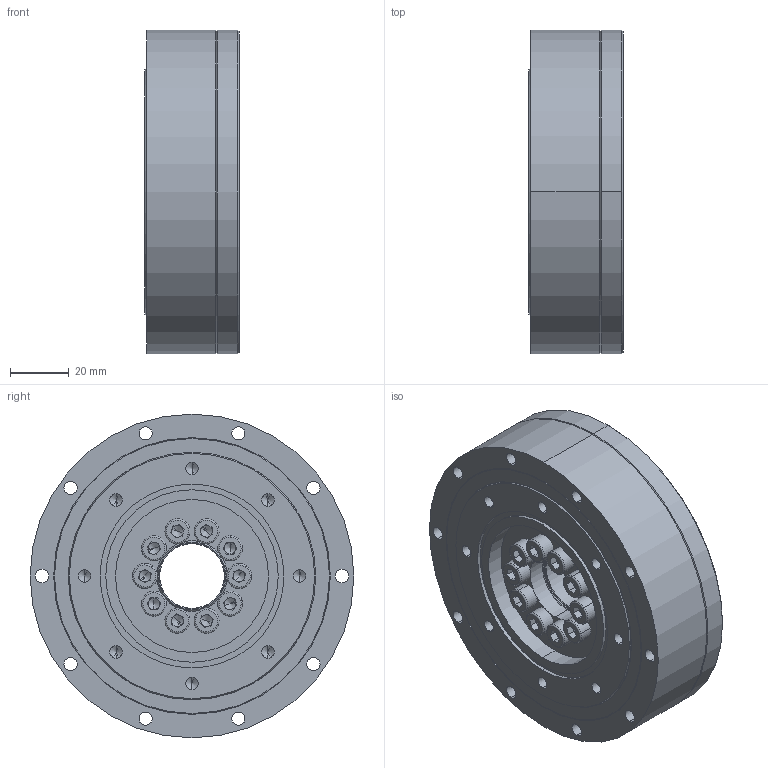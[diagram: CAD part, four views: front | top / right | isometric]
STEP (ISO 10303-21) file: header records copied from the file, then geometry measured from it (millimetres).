
FILE_DESCRIPTION (( 'STEP AP203' ), '1' );
FILE_NAME ('LCD-25-XXX-C-I.STEP', '2022-06-25T03:07:48', ( '' ), ( '' ), 'SwSTEP 2.0', 'SolidWorks 2013', '' );
FILE_SCHEMA (( 'CONFIG_CONTROL_DESIGN' ));
Length unit declared in the file: millimetre
Products named in the file (17): 柔性轴承RZC-25S; socket head cap screw_din_内六角圆柱头螺钉M3 x 10; DB-25A-I; countersunk flat head cross recess screw_din_ISO 7046-1 - M2.5 x 6 - Z --- 6C; LCD-25-P04-3; LCD-25-XXX-P03-I; LCD-25-XXX-P02; LCD-25-XXX-C-I; LCD-25-P05; LCD-25-100-P01-TT; 84945 TCY; RZC-25S悵厥殤; socket head cap screw_din_内六角圆柱头螺钉M3 x 12; RZC-25S内外圈+钢球; socket head cap screw_din_内六角圆柱头螺钉M5 x 12; LCD-25-P04-2; LCD-25-P04-1
Assembly tree (32 placements, depth 3):
  LCD-25-XXX-C-I
    LCD-25-XXX-P03-I
    DB-25A-I
    柔性轴承RZC-25S
      RZC-25S内外圈+钢球
      RZC-25S悵厥殤
    LCD-25-100-P01-TT
    LCD-25-P05
    socket head cap screw_din_内六角圆柱头螺钉M5 x 12  x10
    LCD-25-XXX-P02
    socket head cap screw_din_内六角圆柱头螺钉M3 x 12  x5
    countersunk flat head cross recess screw_din_ISO 7046-1 - M2.5 x 6 - Z --- 6C  x4
    LCD-25-P04-1
    LCD-25-P04-2
    LCD-25-P04-3
    84945 TCY
    socket head cap screw_din_内六角圆柱头螺钉M3 x 10
Bounding box: 32 x 110 x 110 mm (x, y, z)
Volume: 218887.3 mm3; surface area: 120628.2 mm2
Topology: 55 solids, 55 shells, 1308 faces, 3142 edges, 1902 vertices
Faces by surface type: cylinder 453, plane 451, cone 230, torus 128, sphere 46
Entity records: 26894 total; most frequent: DIRECTION 4842, CARTESIAN_POINT 4140, ORIENTED_EDGE 3882, AXIS2_PLACEMENT_3D 2060, EDGE_CURVE 1941, VERTEX_POINT 1242, CIRCLE 1190, EDGE_LOOP 1073
